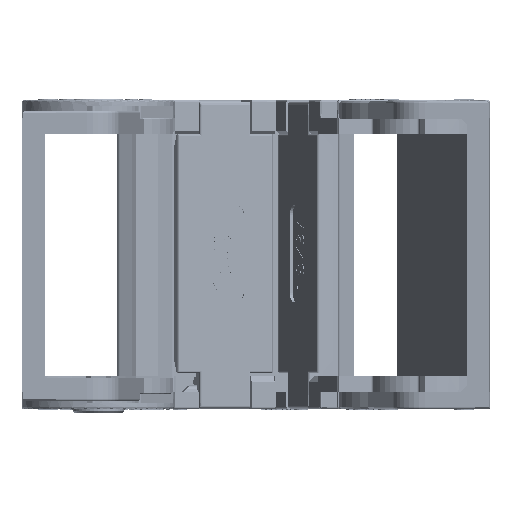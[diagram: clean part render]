
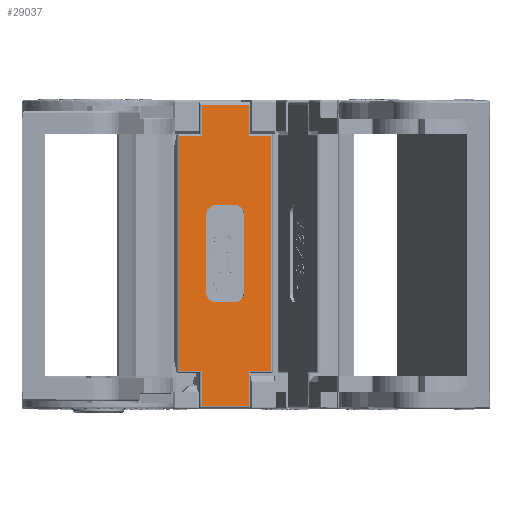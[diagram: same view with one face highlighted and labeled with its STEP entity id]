
A CAD part, left-side view. The second image highlights one B-rep face of the part: STEP entity #29037.
In plain terms, the highlighted planar face has unit normal (-0.978, -0.209, 0).
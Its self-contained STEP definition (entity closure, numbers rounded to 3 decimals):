
#29037=ADVANCED_FACE('',(#52834,#52835),#40640,.T.);
#40640=PLANE('',#280598);
#48126=CIRCLE('',#280594,1.611);
#48127=CIRCLE('',#280595,1.511);
#48128=CIRCLE('',#280596,1.511);
#48129=CIRCLE('',#280597,1.511);
#52834=FACE_BOUND('',#61044,.T.);
#52835=FACE_BOUND('',#61045,.T.);
#61044=EDGE_LOOP('',(#112886,#112887,#112888,#112889,#112890,#112891,#112892,
#112893));
#61045=EDGE_LOOP('',(#112894,#112895,#112896,#112897,#112898,#112899,#112900,
#112901,#112902,#112903,#112904,#112905));
#112886=ORIENTED_EDGE('',*,*,#200133,.F.);
#112887=ORIENTED_EDGE('',*,*,#200134,.F.);
#112888=ORIENTED_EDGE('',*,*,#200135,.F.);
#112889=ORIENTED_EDGE('',*,*,#200136,.F.);
#112890=ORIENTED_EDGE('',*,*,#200137,.F.);
#112891=ORIENTED_EDGE('',*,*,#200138,.F.);
#112892=ORIENTED_EDGE('',*,*,#200139,.F.);
#112893=ORIENTED_EDGE('',*,*,#200140,.F.);
#112894=ORIENTED_EDGE('',*,*,#200141,.T.);
#112895=ORIENTED_EDGE('',*,*,#200142,.T.);
#112896=ORIENTED_EDGE('',*,*,#200143,.F.);
#112897=ORIENTED_EDGE('',*,*,#200144,.T.);
#112898=ORIENTED_EDGE('',*,*,#200145,.T.);
#112899=ORIENTED_EDGE('',*,*,#200146,.T.);
#112900=ORIENTED_EDGE('',*,*,#200147,.T.);
#112901=ORIENTED_EDGE('',*,*,#200148,.T.);
#112902=ORIENTED_EDGE('',*,*,#200149,.T.);
#112903=ORIENTED_EDGE('',*,*,#200150,.T.);
#112904=ORIENTED_EDGE('',*,*,#200151,.T.);
#112905=ORIENTED_EDGE('',*,*,#200152,.T.);
#168179=VERTEX_POINT('',#466182);
#168180=VERTEX_POINT('',#466183);
#168181=VERTEX_POINT('',#466185);
#168182=VERTEX_POINT('',#466187);
#168183=VERTEX_POINT('',#466189);
#168184=VERTEX_POINT('',#466191);
#168185=VERTEX_POINT('',#466193);
#168186=VERTEX_POINT('',#466195);
#168187=VERTEX_POINT('',#466198);
#168188=VERTEX_POINT('',#466199);
#168189=VERTEX_POINT('',#466201);
#168190=VERTEX_POINT('',#466203);
#168191=VERTEX_POINT('',#466205);
#168192=VERTEX_POINT('',#466207);
#168193=VERTEX_POINT('',#466209);
#168194=VERTEX_POINT('',#466211);
#168195=VERTEX_POINT('',#466213);
#168196=VERTEX_POINT('',#466215);
#168197=VERTEX_POINT('',#466217);
#168198=VERTEX_POINT('',#466219);
#200133=EDGE_CURVE('',#168179,#168180,#232996,.T.);
#200134=EDGE_CURVE('',#168181,#168179,#48126,.T.);
#200135=EDGE_CURVE('',#168182,#168181,#232997,.T.);
#200136=EDGE_CURVE('',#168183,#168182,#48127,.T.);
#200137=EDGE_CURVE('',#168184,#168183,#232998,.T.);
#200138=EDGE_CURVE('',#168185,#168184,#48128,.T.);
#200139=EDGE_CURVE('',#168186,#168185,#232999,.T.);
#200140=EDGE_CURVE('',#168180,#168186,#48129,.T.);
#200141=EDGE_CURVE('',#168187,#168188,#233000,.T.);
#200142=EDGE_CURVE('',#168188,#168189,#233001,.T.);
#200143=EDGE_CURVE('',#168190,#168189,#233002,.T.);
#200144=EDGE_CURVE('',#168190,#168191,#233003,.T.);
#200145=EDGE_CURVE('',#168191,#168192,#233004,.T.);
#200146=EDGE_CURVE('',#168192,#168193,#233005,.T.);
#200147=EDGE_CURVE('',#168193,#168194,#233006,.T.);
#200148=EDGE_CURVE('',#168194,#168195,#233007,.T.);
#200149=EDGE_CURVE('',#168195,#168196,#233008,.T.);
#200150=EDGE_CURVE('',#168196,#168197,#233009,.T.);
#200151=EDGE_CURVE('',#168197,#168198,#233010,.T.);
#200152=EDGE_CURVE('',#168198,#168187,#233011,.T.);
#232996=LINE('',#466181,#258059);
#232997=LINE('',#466186,#258060);
#232998=LINE('',#466190,#258061);
#232999=LINE('',#466194,#258062);
#233000=LINE('',#466197,#258063);
#233001=LINE('',#466200,#258064);
#233002=LINE('',#466202,#258065);
#233003=LINE('',#466204,#258066);
#233004=LINE('',#466206,#258067);
#233005=LINE('',#466208,#258068);
#233006=LINE('',#466210,#258069);
#233007=LINE('',#466212,#258070);
#233008=LINE('',#466214,#258071);
#233009=LINE('',#466216,#258072);
#233010=LINE('',#466218,#258073);
#233011=LINE('',#466220,#258074);
#258059=VECTOR('',#319135,1.);
#258060=VECTOR('',#319138,1.);
#258061=VECTOR('',#319141,1.);
#258062=VECTOR('',#319144,1.);
#258063=VECTOR('',#319147,1.);
#258064=VECTOR('',#319148,1.);
#258065=VECTOR('',#319149,1.);
#258066=VECTOR('',#319150,1.);
#258067=VECTOR('',#319151,1.);
#258068=VECTOR('',#319152,1.);
#258069=VECTOR('',#319153,1.);
#258070=VECTOR('',#319154,1.);
#258071=VECTOR('',#319155,1.);
#258072=VECTOR('',#319156,1.);
#258073=VECTOR('',#319157,1.);
#258074=VECTOR('',#319158,1.);
#280594=AXIS2_PLACEMENT_3D('',#466184,#319136,#319137);
#280595=AXIS2_PLACEMENT_3D('',#466188,#319139,#319140);
#280596=AXIS2_PLACEMENT_3D('',#466192,#319142,#319143);
#280597=AXIS2_PLACEMENT_3D('',#466196,#319145,#319146);
#280598=AXIS2_PLACEMENT_3D('',#466221,#319159,#319160);
#319135=DIRECTION('',(0.,0.,-1.));
#319136=DIRECTION('',(-0.978,-0.209,0.));
#319137=DIRECTION('',(0.,0.,-1.));
#319138=DIRECTION('',(-0.209,0.978,0.));
#319139=DIRECTION('',(-0.978,-0.209,0.));
#319140=DIRECTION('',(0.,0.,-1.));
#319141=DIRECTION('',(0.,0.,1.));
#319142=DIRECTION('',(-0.978,-0.209,0.));
#319143=DIRECTION('',(0.,0.,-1.));
#319144=DIRECTION('',(0.209,-0.978,0.));
#319145=DIRECTION('',(-0.978,-0.209,0.));
#319146=DIRECTION('',(0.,0.,-1.));
#319147=DIRECTION('',(-0.209,0.978,0.));
#319148=DIRECTION('',(0.,0.,1.));
#319149=DIRECTION('',(0.209,-0.978,0.));
#319150=DIRECTION('',(0.,0.,-1.));
#319151=DIRECTION('',(-0.209,0.978,0.));
#319152=DIRECTION('',(0.,0.,-1.));
#319153=DIRECTION('',(0.209,-0.978,0.));
#319154=DIRECTION('',(0.,0.,-1.));
#319155=DIRECTION('',(0.209,-0.978,0.));
#319156=DIRECTION('',(0.,0.,1.));
#319157=DIRECTION('',(0.209,-0.978,0.));
#319158=DIRECTION('',(0.,0.,1.));
#319159=DIRECTION('',(-0.978,-0.209,0.));
#319160=DIRECTION('',(0.,0.,1.));
#466181=CARTESIAN_POINT('',(26.755,-16.706,-358.03));
#466182=CARTESIAN_POINT('',(26.755,-16.706,-372.627));
#466183=CARTESIAN_POINT('',(26.755,-16.706,-384.61));
#466184=CARTESIAN_POINT('',(27.092,-18.281,-372.627));
#466185=CARTESIAN_POINT('',(27.092,-18.281,-371.015));
#466186=CARTESIAN_POINT('',(17.429,26.854,-371.015));
#466187=CARTESIAN_POINT('',(27.703,-21.137,-371.015));
#466188=CARTESIAN_POINT('',(27.703,-21.137,-372.526));
#466189=CARTESIAN_POINT('',(28.019,-22.614,-372.526));
#466190=CARTESIAN_POINT('',(28.019,-22.614,-358.03));
#466191=CARTESIAN_POINT('',(28.019,-22.614,-384.61));
#466192=CARTESIAN_POINT('',(27.703,-21.137,-384.61));
#466193=CARTESIAN_POINT('',(27.703,-21.137,-386.12));
#466194=CARTESIAN_POINT('',(17.429,26.854,-386.12));
#466195=CARTESIAN_POINT('',(27.071,-18.183,-386.12));
#466196=CARTESIAN_POINT('',(27.071,-18.183,-384.61));
#466197=CARTESIAN_POINT('',(17.429,26.854,-360.393));
#466198=CARTESIAN_POINT('',(28.905,-26.751,-360.393));
#466199=CARTESIAN_POINT('',(28.173,-23.333,-360.393));
#466200=CARTESIAN_POINT('',(28.173,-23.333,-352.03));
#466201=CARTESIAN_POINT('',(28.173,-23.333,-355.53));
#466202=CARTESIAN_POINT('',(17.429,26.854,-355.53));
#466203=CARTESIAN_POINT('',(26.601,-15.987,-355.53));
#466204=CARTESIAN_POINT('',(26.601,-15.987,-352.03));
#466205=CARTESIAN_POINT('',(26.601,-15.987,-360.393));
#466206=CARTESIAN_POINT('',(17.429,26.854,-360.393));
#466207=CARTESIAN_POINT('',(25.869,-12.568,-360.393));
#466208=CARTESIAN_POINT('',(25.869,-12.568,-352.03));
#466209=CARTESIAN_POINT('',(25.869,-12.568,-396.742));
#466210=CARTESIAN_POINT('',(17.429,26.854,-396.742));
#466211=CARTESIAN_POINT('',(26.601,-15.987,-396.742));
#466212=CARTESIAN_POINT('',(26.601,-15.987,-367.53));
#466213=CARTESIAN_POINT('',(26.601,-15.987,-402.116));
#466214=CARTESIAN_POINT('',(17.429,26.854,-402.116));
#466215=CARTESIAN_POINT('',(28.173,-23.333,-402.116));
#466216=CARTESIAN_POINT('',(28.173,-23.333,-367.53));
#466217=CARTESIAN_POINT('',(28.173,-23.333,-396.742));
#466218=CARTESIAN_POINT('',(17.429,26.854,-396.742));
#466219=CARTESIAN_POINT('',(28.905,-26.751,-396.742));
#466220=CARTESIAN_POINT('',(28.905,-26.751,-352.03));
#466221=CARTESIAN_POINT('',(17.429,26.854,-352.03));
